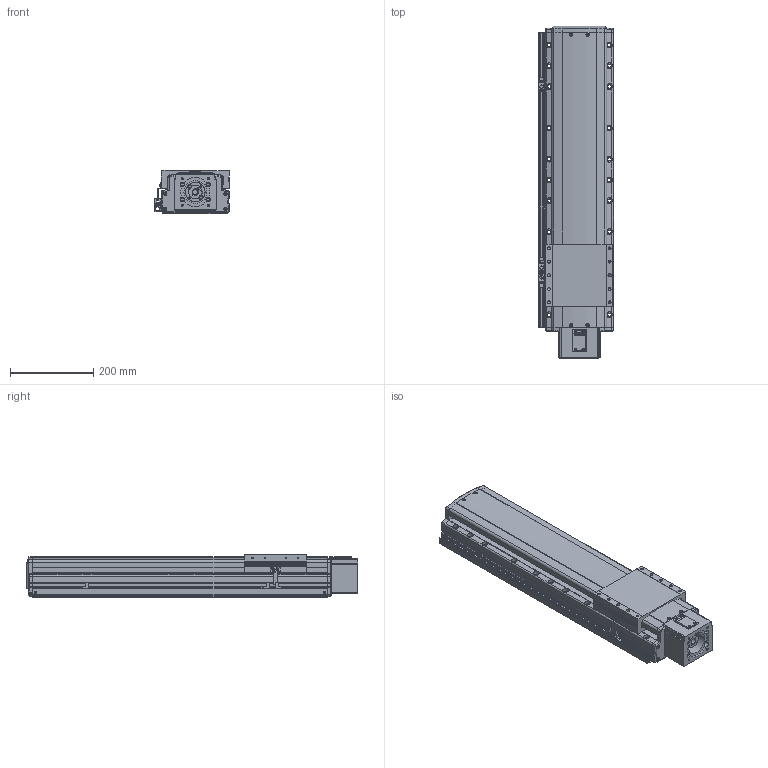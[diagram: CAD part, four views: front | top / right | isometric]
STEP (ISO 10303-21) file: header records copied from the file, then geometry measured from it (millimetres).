
FILE_DESCRIPTION(('STEP AP214'),'1');
FILE_NAME('Z:/Web/3D/PSA165/STP/PSA165-450 (3D)/PSA165ㅁㅁ-450S+3SL.stp','2014-06-23T11:18:20',(' '),(' '),'Spatial InterOp 3D',' ',' ');
FILE_SCHEMA(('automotive_design'));
Length unit declared in the file: millimetre
Products named in the file (85): 스크루 : Round - M4.0 x 12.0; RRCV-PA160; BASE; 스크루 : Round - M4.0 x 10.0; RN15; Screw 20; SLIDE; FRCV; 스크루 : Socket - M6.0 x 25.0; MTHZ-SAN150-80A; SSFX-SAN65; CPLCV-SAN65; 스크루 : Round - M3.0 x 6.0; SDWA47C(2); SDWA47C(3-1); SDWA47C(3); SDWA47C(1); SDWA47C(4); SDWA47C(5); M3.0 x 6.0; SRL-16x17-360L; SGD-SAN150; EE-SX674; SBK-SX674-352; BHCS M4.0 x 10.0
Bounding box: 181 x 799.8 x 104 mm (x, y, z)
Volume: 10721173 mm3; surface area: 896387.1 mm2
Topology: 85 solids, 85 shells, 3465 faces, 9195 edges, 5941 vertices
Faces by surface type: plane 1739, cylinder 1220, cone 377, sphere 70, bspline 35, torus 24
Entity records: 141445 total; most frequent: CARTESIAN_POINT 24100, DIRECTION 19139, ORIENTED_EDGE 18094, EDGE_CURVE 9047, AXIS2_PLACEMENT_3D 6830, VERTEX_POINT 5941, LINE 5479, VECTOR 5479
